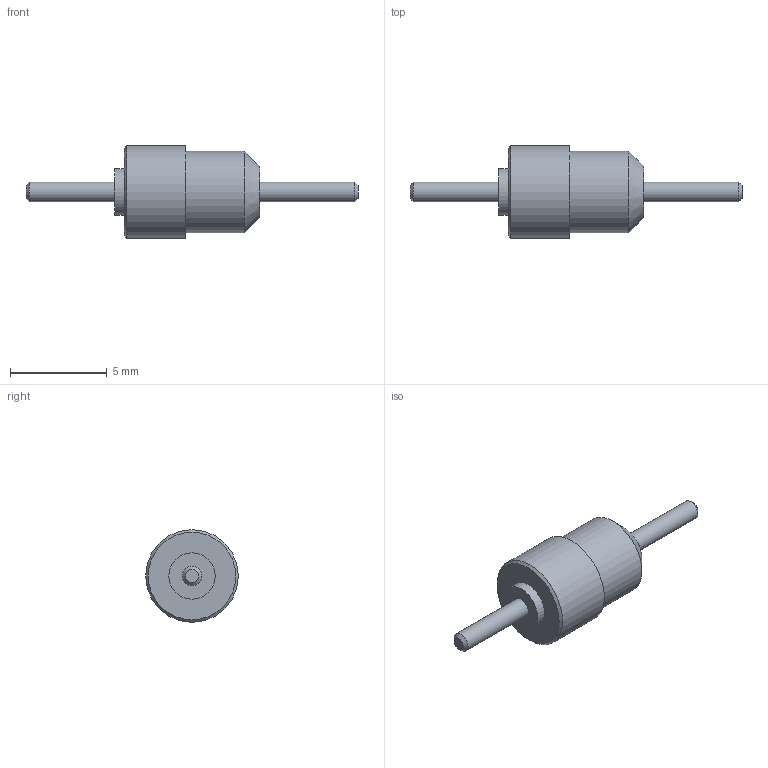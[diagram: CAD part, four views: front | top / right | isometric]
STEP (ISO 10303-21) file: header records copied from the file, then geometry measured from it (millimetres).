
FILE_DESCRIPTION(/* description */ (''),/* implementation_level */ '2;1');
FILE_NAME(/* name */ '\\Snap1\dwgs\Customer 3D Models\571\571-4281-01 Customer model.stp',/* time_stamp */ '2017-01-09T17:00:34+00:00',/* author */ ('paulk'),/* organization */ (''),/* preprocessor_version */ 'ST-DEVELOPER v15.2',/* originating_system */ 'Autodesk Inventor 2014',/* authorisation */ '');
FILE_SCHEMA (('CONFIG_CONTROL_DESIGN'));
Length unit declared in the file: millimetre
Products named in the file (1): 571-4281-01 Customer model
Bounding box: 17.14 x 4.78 x 4.78 mm (x, y, z)
Volume: 116.4 mm3; surface area: 159.7 mm2
Topology: 1 solids, 1 shells, 15 faces, 24 edges, 15 vertices
Faces by surface type: plane 6, cylinder 5, cone 4
Full cylindrical faces by diameter (mm): 1.016 x2, 2.388 x1, 4.216 x1, 4.775 x1
Entity records: 344 total; most frequent: DIRECTION 60, CARTESIAN_POINT 44, AXIS2_PLACEMENT_3D 30, EDGE_LOOP 28, ORIENTED_EDGE 28, FACE_BOUND 17, STYLED_ITEM 16, ADVANCED_FACE 15
